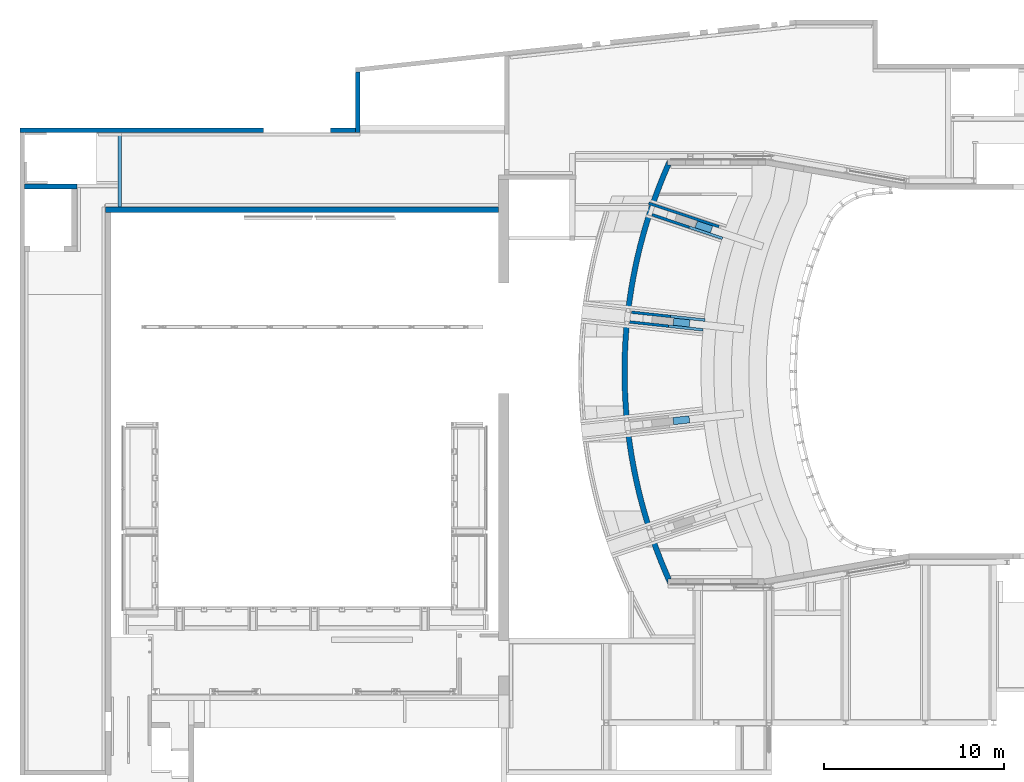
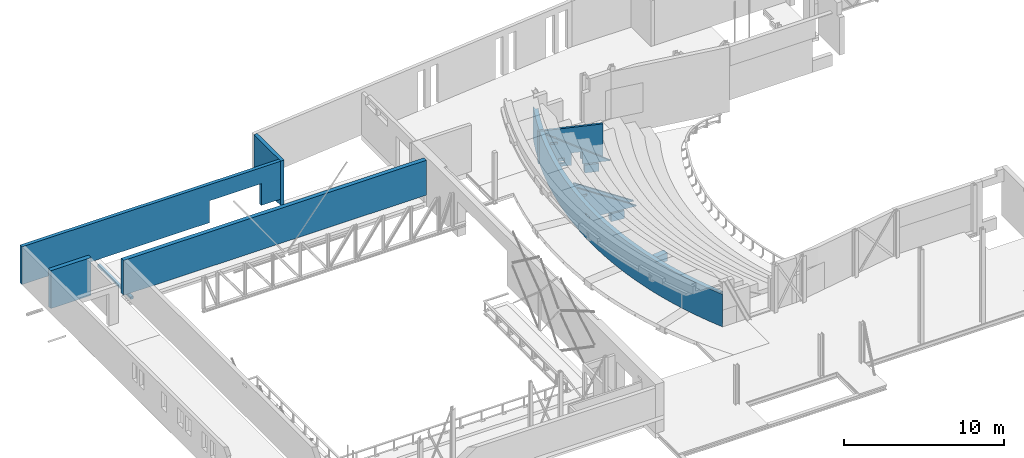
# One storey, part 52 of 68: 13 walls, 24 openings.
"""IFC2X3 building model written with IfcOpenShell, lengths in millimetres."""

from ifc_helpers import new_model, entity, si_unit, converted_unit, derived_unit, direction, frame, frame_2d, origin, place, context, subcontext, project, spatial, polyline, circle_curve, parameter, trimmed, segment, composite_curve, rectangle, outline, extrude, clip, halfspace, bounded_halfspace, material, layer, layer_set, layer_usage, type_object, element, save


model = new_model("IFC2X3")

# Units and contexts
model_context = context("Model", 3, precision=0.01, world=origin(), true_north=direction((6.12303176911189e-17, 1.0)))
body_context = subcontext(model_context, "Body", "Model", "MODEL_VIEW")
ifc_project = project(units=[si_unit("LENGTHUNIT", "METRE", prefix="MILLI"), si_unit("AREAUNIT", "SQUARE_METRE", prefix="MILLI"), si_unit("VOLUMEUNIT", "CUBIC_METRE"), converted_unit("PLANEANGLEUNIT", "DEGREE", entity("IfcRatioMeasure", 0.0174532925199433), si_unit("PLANEANGLEUNIT", "RADIAN"), dimensions=[0, 0, 0, 0, 0, 0, 0]), si_unit("MASSUNIT", "GRAM", prefix="KILO"), derived_unit("MASSDENSITYUNIT", [(si_unit("MASSUNIT", "GRAM", prefix="KILO"), 1), (si_unit("LENGTHUNIT", "METRE"), -3)]), derived_unit("MOMENTOFINERTIAUNIT", [(si_unit("LENGTHUNIT", "METRE"), 4)]), si_unit("TIMEUNIT", "SECOND"), si_unit("FREQUENCYUNIT", "HERTZ"), si_unit("THERMODYNAMICTEMPERATUREUNIT", "DEGREE_CELSIUS"), derived_unit("THERMALTRANSMITTANCEUNIT", [(si_unit("MASSUNIT", "GRAM", prefix="KILO"), 1), (si_unit("THERMODYNAMICTEMPERATUREUNIT", "KELVIN"), -1), (si_unit("TIMEUNIT", "SECOND"), -3)]), derived_unit("VOLUMETRICFLOWRATEUNIT", [(si_unit("LENGTHUNIT", "METRE"), 3), (si_unit("TIMEUNIT", "SECOND"), -1)]), si_unit("ELECTRICCURRENTUNIT", "AMPERE"), si_unit("ELECTRICVOLTAGEUNIT", "VOLT"), si_unit("POWERUNIT", "WATT"), si_unit("FORCEUNIT", "NEWTON", prefix="KILO"), si_unit("ILLUMINANCEUNIT", "LUX"), si_unit("LUMINOUSFLUXUNIT", "LUMEN"), si_unit("LUMINOUSINTENSITYUNIT", "CANDELA"), derived_unit("USERDEFINED", [(si_unit("MASSUNIT", "GRAM", prefix="KILO"), -1), (si_unit("LENGTHUNIT", "METRE"), -2), (si_unit("TIMEUNIT", "SECOND"), 3), (si_unit("LUMINOUSFLUXUNIT", "LUMEN"), 1)]), derived_unit("LINEARVELOCITYUNIT", [(si_unit("LENGTHUNIT", "METRE"), 1), (si_unit("TIMEUNIT", "SECOND"), -1)]), si_unit("PRESSUREUNIT", "PASCAL"), derived_unit("USERDEFINED", [(si_unit("LENGTHUNIT", "METRE"), -2), (si_unit("MASSUNIT", "GRAM", prefix="KILO"), 1), (si_unit("TIMEUNIT", "SECOND"), -2)]), derived_unit("LINEARFORCEUNIT", [(si_unit("MASSUNIT", "GRAM", prefix="KILO"), 1), (si_unit("LENGTHUNIT", "METRE"), 1), (si_unit("TIMEUNIT", "SECOND"), -2), (si_unit("LENGTHUNIT", "METRE"), -1)]), derived_unit("PLANARFORCEUNIT", [(si_unit("MASSUNIT", "GRAM", prefix="KILO"), 1), (si_unit("LENGTHUNIT", "METRE"), 1), (si_unit("TIMEUNIT", "SECOND"), -2), (si_unit("LENGTHUNIT", "METRE"), -2)])], contexts=[model_context])

# Site, building, storey
site_placement = place(None, origin())
site = spatial("IfcSite", under=ifc_project, at=site_placement, Name="Theater aan de Parade", CompositionType="ELEMENT")
building_placement = place(site_placement, origin())
building = spatial("IfcBuilding", under=site, at=building_placement, Name="Theater aan de Parade", CompositionType="ELEMENT")
storey_placement = place(building_placement, frame((0.0, 0.0, 8750.0)))
storey = spatial("IfcBuildingStorey", under=building, at=storey_placement, Name="02 tweede verdieping", CompositionType="ELEMENT", Elevation=8750.0)

# Wall, openings
ifc_material_1 = material(Name="00_PBT_MAT_beton t.p.g.")
ifc_layer_1 = layer(ifc_material_1, 300.0)
ifc_layer_set_1 = layer_set([ifc_layer_1], Name="Basic Wall:28_PBT_WA_beton t.p.g._d=300_bestaand")
ifc_layer_usage_1 = layer_usage(ifc_layer_set_1, "AXIS2", "POSITIVE", -150.0)
wall_type_1 = type_object("IfcWallType", Name="Basic Wall:28_PBT_WA_beton t.p.g._d=300_bestaand", PredefinedType="STANDARD", material=ifc_layer_set_1)
wall_1_placement = place(storey_placement, frame((46408.0562752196, 20692.5765726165, -80.0)))
wall_1 = element("IfcWallStandardCase", 1, at=wall_1_placement, inside=storey, type_object=wall_type_1, material=ifc_layer_usage_1, Name="Basic Wall:28_PBT_WA_beton t.p.g._d=300_bestaand", ObjectType="Basic Wall:28_PBT_WA_beton t.p.g._d=300_bestaand", context=body_context, shape_type="Clipping", body=[
    clip(clip(extrude(outline(composite_curve([segment(polyline([(-161.541956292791, 23217.4234273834), (-161.541956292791, 23517.4234273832)]), True, "CONTINUOUS"), segment(polyline([(-161.541956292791, 23517.4234273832), (-163.530516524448, 23517.4234273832)]), True, "CONTINUOUS"), segment(trimmed(circle_curve(frame_2d((25851.9437247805, 11757.4234273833), x_axis=(1.0, 0.0)), 28550.0), [parameter(155.675192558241)], [parameter(204.455966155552)], True, "PARAMETER"), True, "CONTINUOUS"), segment(polyline([(-136.541956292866, -62.0990673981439), (-136.541956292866, 237.423427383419)]), True, "CONTINUOUS"), segment(polyline([(-136.541956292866, 237.423427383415), (57.5237855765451, 237.423427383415)]), True, "CONTINUOUS"), segment(polyline([(57.5237855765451, 237.423427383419), (-377.90030401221, 1266.58064783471)]), True, "CONTINUOUS"), segment(polyline([(-377.90030401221, 1266.58064783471), (-636.354282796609, 1937.4149569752)]), True, "CONTINUOUS"), segment(polyline([(-636.354282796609, 1937.4149569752), (-830.553907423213, 2478.04736498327)]), True, "CONTINUOUS"), segment(polyline([(-830.553907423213, 2478.04736498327), (-1013.71975278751, 3022.51496134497)]), True, "CONTINUOUS"), segment(polyline([(-1013.71975278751, 3022.51496134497), (-1185.77678109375, 3570.59438029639)]), True, "CONTINUOUS"), segment(polyline([(-1185.77678109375, 3570.59438029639), (-1346.6538490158, 4122.05899477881)]), True, "CONTINUOUS"), segment(polyline([(-1346.6538490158, 4122.05899477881), (-1496.28443599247, 4676.68077803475)]), True, "CONTINUOUS"), segment(polyline([(-1496.28443599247, 4676.68077803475), (-1634.60667173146, 5234.23039789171)]), True, "CONTINUOUS"), segment(polyline([(-1634.60667173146, 5234.23039789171), (-1761.56336179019, 5794.47731158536)]), True, "CONTINUOUS"), segment(polyline([(-1761.56336179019, 5794.47731158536), (-1877.10201122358, 6357.18986108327)]), True, "CONTINUOUS"), segment(polyline([(-1877.10201122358, 6357.18986108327), (-1981.17484628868, 6922.1353688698)]), True, "CONTINUOUS"), segment(polyline([(-1981.17484628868, 6922.1353688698), (-2073.73883419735, 7489.08023415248)]), True, "CONTINUOUS"), segment(polyline([(-2073.73883419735, 7489.08023415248), (-2154.75570090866, 8057.79002945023)]), True, "CONTINUOUS"), segment(polyline([(-2154.75570090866, 8057.79002945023), (-2224.1919469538, 8628.02959752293)]), True, "CONTINUOUS"), segment(polyline([(-2224.1919469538, 8628.02959752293), (-2282.01886128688, 9199.56314860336)]), True, "CONTINUOUS"), segment(polyline([(-2282.01886128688, 9199.56314860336), (-2328.21253315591, 9772.15435789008)]), True, "CONTINUOUS"), segment(polyline([(-2328.21253315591, 9772.15435789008), (-2362.75386198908, 10345.5664632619)]), True, "CONTINUOUS"), segment(polyline([(-2362.75386198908, 10345.5664632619), (-2385.62856529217, 10919.5623631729)]), True, "CONTINUOUS"), segment(polyline([(-2385.62856529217, 10919.5623631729), (-2396.82718455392, 11493.904714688)]), True, "CONTINUOUS"), segment(polyline([(-2396.82718455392, 11493.904714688), (-2396.34508915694, 12068.356031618)]), True, "CONTINUOUS"), segment(polyline([(-2396.34508915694, 12068.356031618), (-2384.18247829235, 12642.6787827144)]), True, "CONTINUOUS"), segment(polyline([(-2384.18247829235, 12642.6787827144), (-2360.34438087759, 13216.6354898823)]), True, "CONTINUOUS"), segment(polyline([(-2360.34438087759, 13216.6354898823), (-2324.84065347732, 13789.9888263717)]), True, "CONTINUOUS"), segment(polyline([(-2324.84065347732, 13789.9888263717), (-2277.68597622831, 14362.501714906)]), True, "CONTINUOUS"), segment(polyline([(-2277.68597622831, 14362.501714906), (-2218.89984676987, 14933.9374257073)]), True, "CONTINUOUS"), segment(polyline([(-2218.89984676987, 14933.9374257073), (-2148.50657218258, 15504.0596743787)]), True, "CONTINUOUS"), segment(polyline([(-2148.50657218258, 15504.0596743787), (-2066.53525893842, 16072.6327196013)]), True, "CONTINUOUS"), segment(polyline([(-2066.53525893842, 16072.6327196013), (-1973.01980086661, 16639.4214606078)]), True, "CONTINUOUS"), segment(polyline([(-1973.01980086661, 16639.4214606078), (-1867.99886513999, 17204.1915343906)]), True, "CONTINUOUS"), segment(polyline([(-1867.99886513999, 17204.1915343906), (-1751.51587628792, 17766.7094126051)]), True, "CONTINUOUS"), segment(polyline([(-1751.51587628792, 17766.7094126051), (-1623.6189982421, 18326.742498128)]), True, "CONTINUOUS"), segment(polyline([(-1623.6189982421, 18326.742498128), (-1484.36111442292, 18884.0592212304)]), True, "CONTINUOUS"), segment(polyline([(-1484.36111442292, 18884.0592212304), (-1333.7998058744, 19438.4291353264)]), True, "CONTINUOUS"), segment(polyline([(-1333.7998058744, 19438.4291353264), (-1171.99732745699, 19989.6230122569)]), True, "CONTINUOUS"), segment(polyline([(-1171.99732745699, 19989.6230122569), (-999.020582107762, 20537.4129370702)]), True, "CONTINUOUS"), segment(polyline([(-999.020582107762, 20537.4129370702), (-814.941093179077, 21081.572402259)]), True, "CONTINUOUS"), segment(polyline([(-814.941093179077, 21081.572402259), (-619.834974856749, 21621.8764014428)]), True, "CONTINUOUS"), segment(polyline([(-619.834974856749, 21621.8764014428), (-413.782899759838, 22158.1015247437)]), True, "CONTINUOUS"), segment(polyline([(-413.782899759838, 22158.1015247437), (-196.870101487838, 22690.02596495)]), True, "CONTINUOUS"), segment(polyline([(-196.870101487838, 22690.02596495), (30.8109068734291, 23217.4234273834)]), True, "CONTINUOUS"), segment(polyline([(30.8109068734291, 23217.4234273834), (-161.541956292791, 23217.4234273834)]), True, "CONTINUOUS")], self_intersect=False)), origin(), (0.0, 0.0, 1.0), 2480.0), bounded_halfspace(frame((-161.541956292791, 23217.4234273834, 1250.0), z_axis=(-1.0, 0.0, 0.0), x_axis=(0.0, 1.0, 0.0)), True, frame((-161.541956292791, 23217.4234273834, 1250.0), z_axis=(-1.0, 0.0, 0.0), x_axis=(0.0, 1.0, 0.0)), polyline([(0.0, 0.0), (300.0, 0.0), (300.0, 1250.0), (0.0, 1250.0), (0.0, 0.0)]))), bounded_halfspace(frame((-136.541956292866, 237.42342738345, 0.0), z_axis=(-1.0, 0.0, 0.0), x_axis=(0.0, 1.0, 0.0)), True, frame((-136.541956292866, 237.42342738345, 0.0), z_axis=(-1.0, 0.0, 0.0), x_axis=(0.0, 1.0, 0.0)), polyline([(0.0, 0.0), (-299.522494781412, 0.0), (-299.522494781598, -1270.0), (0.0, -1270.0), (0.0, 0.0)]))),
])
opening_1_placement = place(wall_1_placement, origin())
element("IfcOpeningElement", 2, at=opening_1_placement, cuts=wall_1, Name="Basic Wall:28_PBT_WA_beton t.p.g._d=300_bestaand", ObjectType="Recess", context=body_context, shape_type="SweptSolid", body=[
    extrude(outline(composite_curve([segment(trimmed(circle_curve(frame_2d((28166.8399086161, -3626.22966211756), x_axis=(1.0, 0.0)), 28550.0), [parameter(172.262619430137)], [parameter(173.065442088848)], True, "PARAMETER"), True, "CONTINUOUS"), segment(polyline([(-174.308302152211, -179.228342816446), (123.497108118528, -215.449022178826)]), True, "CONTINUOUS"), segment(trimmed(circle_curve(frame_2d((28166.8399086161, -3626.22966211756), x_axis=(1.0, 0.0)), 28250.0), [parameter(172.262619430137)], [parameter(173.065442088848)], True, "PARAMETER"), False, "CONTINUOUS"), segment(polyline([(174.039933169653, 177.143779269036), (-123.228739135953, 217.533585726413)]), True, "CONTINUOUS")], self_intersect=False)), frame((-2314.8961838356, 15383.6530895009, -1920.0)), (0.0, 0.0, 1.0), 200.000000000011),
])
opening_2_placement = place(wall_1_placement, origin())
element("IfcOpeningElement", 3, at=opening_2_placement, cuts=wall_1, Name="Basic Wall:28_PBT_WA_beton t.p.g._d=300_bestaand", ObjectType="Recess", context=body_context, shape_type="SweptSolid", body=[
    extrude(outline(composite_curve([segment(trimmed(circle_curve(frame_2d((28127.0890137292, 3922.6618021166), x_axis=(1.0, 0.0)), 28550.0), [parameter(187.537967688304)], [parameter(188.340790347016)], True, "PARAMETER"), True, "CONTINUOUS"), segment(polyline([(-120.930995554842, -218.8192801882), (175.895834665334, -175.301090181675)]), True, "CONTINUOUS"), segment(trimmed(circle_curve(frame_2d((28127.0890137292, 3922.6618021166), x_axis=(1.0, 0.0)), 28250.0), [parameter(187.537967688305)], [parameter(188.340790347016)], True, "PARAMETER"), False, "CONTINUOUS"), segment(polyline([(121.221302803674, 216.737658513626), (-176.18614191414, 177.382711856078)]), True, "CONTINUOUS")], self_intersect=False)), frame((-2275.14528894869, 7834.76162526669, -1920.0)), (0.0, 0.0, 1.0), 200.000000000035),
])
opening_3_placement = place(wall_1_placement, origin())
element("IfcOpeningElement", 4, at=opening_3_placement, cuts=wall_1, Name="Basic Wall:28_PBT_WA_beton t.p.g._d=300_bestaand", ObjectType="Recess", context=body_context, shape_type="SweptSolid", body=[
    extrude(outline(composite_curve([segment(trimmed(circle_curve(frame_2d((28318.3590512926, 2142.65084465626), x_axis=(1.0, 0.0)), 28550.0), [parameter(183.925512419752)], [parameter(184.728335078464)], True, "PARAMETER"), True, "CONTINUOUS"), segment(polyline([(-134.47796255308, -210.764941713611), (164.501060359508, -186.035528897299)]), True, "CONTINUOUS"), segment(trimmed(circle_curve(frame_2d((28318.3590512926, 2142.65084465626), x_axis=(1.0, 0.0)), 28250.0), [parameter(183.925512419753)], [parameter(184.728335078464)], True, "PARAMETER"), False, "CONTINUOUS"), segment(polyline([(134.636535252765, 208.669164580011), (-164.659633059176, 188.131306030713)]), True, "CONTINUOUS")], self_intersect=False)), frame((-2466.41532651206, 9614.77258272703, -1920.0)), (0.0, 0.0, 1.0), 200.000000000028),
])
opening_4_placement = place(wall_1_placement, origin())
element("IfcOpeningElement", 5, at=opening_4_placement, cuts=wall_1, Name="Basic Wall:28_PBT_WA_beton t.p.g._d=300_bestaand", ObjectType="Recess", context=body_context, shape_type="SweptSolid", body=[
    extrude(rectangle(XDim=693.453344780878, YDim=499.999999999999, at=frame_2d((4.32009983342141e-12, -4.33431068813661e-12), x_axis=(1.0, 0.0))), frame((-2603.27768453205, 12342.0680320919, 1756.839300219), z_axis=(0.0, 0.0, 1.0), x_axis=(-1.0, 0.0, 0.0)), (0.0, 0.0, 1.0), 150.000000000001),
])

# Walls
ifc_material_2 = material(Name="00_PBT_MAT_beton t.p.g._C30/37")
ifc_layer_2 = layer(ifc_material_2, 300.0)
ifc_layer_set_2 = layer_set([ifc_layer_2], Name="Basic Wall:28_PBT_WA_beton t.p.g._d=300_C30/37")
ifc_layer_usage_2 = layer_usage(ifc_layer_set_2, "AXIS2", "POSITIVE", -150.0)
wall_type_2 = type_object("IfcWallType", Name="Basic Wall:28_PBT_WA_beton t.p.g._d=300_C30/37", PredefinedType="STANDARD", material=ifc_layer_set_2)
wall_2_placement = place(storey_placement, frame((13454.8570025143, 42720.0, 505.0), z_axis=(0.0, 0.0, 1.0), x_axis=(-1.0, 0.0, 0.0)))
element("IfcWallStandardCase", 6, at=wall_2_placement, inside=storey, type_object=wall_type_2, material=ifc_layer_usage_2, Name="Basic Wall:28_PBT_WA_beton t.p.g._d=300_C30/37", ObjectType="Basic Wall:28_PBT_WA_beton t.p.g._d=300_C30/37", context=body_context, shape_type="SweptSolid", body=[
    extrude(rectangle(XDim=2900.74444879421, YDim=300.000000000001, at=frame_2d((1450.3722243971, 7.38964445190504e-13), x_axis=(-1.0, 0.0))), origin(), (0.0, 0.0, 1.0), 2885.0),
])
ifc_layer_usage_3 = layer_usage(ifc_layer_set_2, "AXIS2", "POSITIVE", -150.0)
wall_3_placement = place(storey_placement, frame((15053.8570025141, 41423.308327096, 730.0)))
element("IfcWallStandardCase", 7, at=wall_3_placement, inside=storey, type_object=wall_type_2, material=ifc_layer_usage_3, Name="Basic Wall:28_PBT_WA_beton t.p.g._d=300_C30/37", ObjectType="Basic Wall:28_PBT_WA_beton t.p.g._d=300_C30/37", context=body_context, shape_type="SweptSolid", body=[
    extrude(rectangle(XDim=21800.0011275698, YDim=300.000000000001, at=frame_2d((10900.0005637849, -2.17426077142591e-12), x_axis=(-1.0, 0.0))), origin(), (0.0, 0.0, 1.0), 2660.0),
])
ifc_layer_3 = layer(ifc_material_2, 250.0)
ifc_layer_set_3 = layer_set([ifc_layer_3], Name="Basic Wall:28_PBT_WA_beton t.p.g._d=250_C30/37")
ifc_layer_usage_4 = layer_usage(ifc_layer_set_3, "AXIS2", "NEGATIVE", 125.0)
wall_type_3 = type_object("IfcWallType", Name="Basic Wall:28_PBT_WA_beton t.p.g._d=250_C30/37", PredefinedType="STANDARD", material=ifc_layer_set_3)
wall_4_placement = place(storey_placement, frame((29063.8975663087, 49086.4968436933, 0.0), z_axis=(0.0, 0.0, 1.0), x_axis=(0.0, -1.0, 0.0)))
element("IfcWallStandardCase", 8, at=wall_4_placement, inside=storey, type_object=wall_type_3, material=ifc_layer_usage_4, Name="Basic Wall:28_PBT_WA_beton t.p.g._d=250_C30/37", ObjectType="Basic Wall:28_PBT_WA_beton t.p.g._d=250_C30/37", context=body_context, shape_type="SweptSolid", body=[
    extrude(outline(polyline([(3363.49684369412, -125.0), (3363.49684369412, 125.0), (0.0, 125.0), (27.1269532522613, -125.0), (3363.49684369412, -125.0)])), origin(), (0.0, 0.0, 1.0), 3390.0),
])

# Wall, opening
ifc_layer_usage_5 = layer_usage(ifc_layer_set_3, "AXIS2", "NEGATIVE", 125.0)
wall_5_placement = place(storey_placement, frame((28938.8975663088, 45848.0, 505.0), z_axis=(0.0, 0.0, 1.0), x_axis=(-1.0, 0.0, 0.0)))
wall_5 = element("IfcWallStandardCase", 9, at=wall_5_placement, inside=storey, type_object=wall_type_3, material=ifc_layer_usage_5, Name="Basic Wall:28_PBT_WA_beton t.p.g._d=250_C30/37", ObjectType="Basic Wall:28_PBT_WA_beton t.p.g._d=250_C30/37", context=body_context, shape_type="SweptSolid", body=[
    extrude(rectangle(XDim=18634.7850125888, YDim=249.999999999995, at=frame_2d((9317.39250629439, -4.21351842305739e-12), x_axis=(-1.0, 0.0))), origin(), (0.0, 0.0, 1.0), 2885.0),
])
opening_5_placement = place(wall_5_placement, origin())
element("IfcOpeningElement", 10, at=opening_5_placement, cuts=wall_5, Name="Basic Wall:28_PBT_WA_beton t.p.g._d=250_C30/37", ObjectType="Opening", context=body_context, shape_type="SweptSolid", body=[
    extrude(rectangle(XDim=2199.99999999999, YDim=3725.00000000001, at=frame_2d((-2.1600499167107e-12, 1.02318153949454e-12), x_axis=(0.0, 1.0))), frame((3252.6679143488, -125.0, 565.0), z_axis=(0.0, 1.0, 0.0), x_axis=(1.0, 0.0, 0.0)), (0.0, 0.0, 1.0), 249.999999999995),
])

# Walls
ifc_layer_4 = layer(ifc_material_2, 200.0)
ifc_layer_set_4 = layer_set([ifc_layer_4], Name="Basic Wall:28_PBT_WA_beton t.p.g._d=200_C30/37")
ifc_layer_usage_6 = layer_usage(ifc_layer_set_4, "AXIS2", "POSITIVE", -100.0)
wall_type_4 = type_object("IfcWallType", Name="Basic Wall:28_PBT_WA_beton t.p.g._d=200_C30/37", PredefinedType="STANDARD", material=ifc_layer_set_4)
wall_6_placement = place(storey_placement, frame((15835.0, 45723.0, 0.0), z_axis=(0.0, 0.0, 1.0), x_axis=(0.0, -1.0, 0.0)))
element("IfcWallStandardCase", 11, at=wall_6_placement, inside=storey, type_object=wall_type_4, material=ifc_layer_usage_6, Name="Basic Wall:28_PBT_WA_beton t.p.g._d=200_C30/37", ObjectType="Basic Wall:28_PBT_WA_beton t.p.g._d=200_C30/37", context=body_context, shape_type="SweptSolid", body=[
    extrude(rectangle(XDim=4149.69167290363, YDim=200.000000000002, at=frame_2d((2074.84583645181, -3.33955085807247e-13), x_axis=(-1.0, 0.0))), origin(), (0.0, 0.0, 1.0), 165.000000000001),
])
ifc_layer_5 = layer(ifc_material_2, 400.0)
ifc_layer_set_5 = layer_set([ifc_layer_5], Name="Basic Wall:28_PBT_WA_beton t.p.g._d=400_C30/37")
ifc_layer_usage_7 = layer_usage(ifc_layer_set_5, "AXIS2", "NEGATIVE", 200.0)
wall_type_5 = type_object("IfcWallType", Name="Basic Wall:28_PBT_WA_beton t.p.g._d=400_C30/37", PredefinedType="STANDARD", material=ifc_layer_set_5)
wall_7_placement = place(storey_placement, frame((48690.439813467, 40334.9499787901, -900.0), z_axis=(0.0, 0.0, 1.0), x_axis=(-0.948323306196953, 0.317305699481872, 0.0)))
element("IfcWallStandardCase", 12, at=wall_7_placement, inside=storey, type_object=wall_type_5, material=ifc_layer_usage_7, Name="Basic Wall:28_PBT_WA_beton t.p.g._d=400_C30/37", ObjectType="Basic Wall:28_PBT_WA_beton t.p.g._d=400_C30/37", context=body_context, shape_type="SweptSolid", body=[
    extrude(rectangle(XDim=900.00000000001, YDim=400.000000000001, at=frame_2d((450.000000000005, 1.3926637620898e-12), x_axis=(-1.0, 0.0))), origin(), (0.0, 0.0, 1.0), 610.000000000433),
])
ifc_layer_usage_8 = layer_usage(ifc_layer_set_5, "AXIS2", "POSITIVE", -200.0)
wall_8_placement = place(storey_placement, frame((47468.4374648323, 35118.7407513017, -900.0), z_axis=(0.0, 0.0, 1.0), x_axis=(-0.994276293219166, 0.10683937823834, 0.0)))
element("IfcWallStandardCase", 13, at=wall_8_placement, inside=storey, type_object=wall_type_5, material=ifc_layer_usage_8, Name="Basic Wall:28_PBT_WA_beton t.p.g._d=400_C30/37", ObjectType="Basic Wall:28_PBT_WA_beton t.p.g._d=400_C30/37", context=body_context, shape_type="SweptSolid", body=[
    extrude(rectangle(XDim=900.000000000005, YDim=399.999999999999, at=frame_2d((450.000000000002, 1.27897692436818e-12), x_axis=(-1.0, 0.0))), origin(), (0.0, 0.0, 1.0), 610.000000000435),
])
ifc_layer_usage_9 = layer_usage(ifc_layer_set_5, "AXIS2", "NEGATIVE", 200.0)
wall_9_placement = place(storey_placement, frame((47458.5406329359, 29793.3618563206, -900.0), z_axis=(0.0, 0.0, 1.0), x_axis=(-0.994276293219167, -0.106839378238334, 0.0)))
element("IfcWallStandardCase", 14, at=wall_9_placement, inside=storey, type_object=wall_type_5, material=ifc_layer_usage_9, Name="Basic Wall:28_PBT_WA_beton t.p.g._d=400_C30/37", ObjectType="Basic Wall:28_PBT_WA_beton t.p.g._d=400_C30/37", context=body_context, shape_type="SweptSolid", body=[
    extrude(rectangle(XDim=900.000000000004, YDim=399.999999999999, at=frame_2d((449.999999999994, 4.12114786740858e-13), x_axis=(-1.0, 0.0))), origin(), (0.0, 0.0, 1.0), 610.000000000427),
])

# Wall, openings
ifc_layer_6 = layer(ifc_material_2, 150.0)
ifc_layer_set_6 = layer_set([ifc_layer_6], Name="Basic Wall:28_PBT_WA_beton t.p.g._d=150_C30/37")
ifc_layer_usage_10 = layer_usage(ifc_layer_set_6, "AXIS2", "POSITIVE", -75.0)
wall_type_6 = type_object("IfcWallType", Name="Basic Wall:28_PBT_WA_beton t.p.g._d=150_C30/37", PredefinedType="STANDARD", material=ifc_layer_set_6)
wall_10_placement = place(storey_placement, frame((49103.5402918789, 40486.7134784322, -80.0), z_axis=(0.0, 0.0, 1.0), x_axis=(-0.948323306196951, 0.317305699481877, 0.0)))
wall_10 = element("IfcWallStandardCase", 15, at=wall_10_placement, inside=storey, type_object=wall_type_6, material=ifc_layer_usage_10, Name="Basic Wall:28_PBT_WA_beton t.p.g._d=150_C30/37", ObjectType="Basic Wall:28_PBT_WA_beton t.p.g._d=150_C30/37", context=body_context, shape_type="SweptSolid", body=[
    extrude(rectangle(XDim=4121.12536622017, YDim=149.999999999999, at=frame_2d((2060.56268311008, -3.22586402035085e-12), x_axis=(-1.0, 0.0))), origin(), (0.0, 0.0, 1.0), 2480.0),
])
opening_6_placement = place(wall_10_placement, origin())
element("IfcOpeningElement", 16, at=opening_6_placement, cuts=wall_10, Name="Basic Wall:28_PBT_WA_beton t.p.g._d=150_C30/37", ObjectType="Opening", context=body_context, shape_type="SweptSolid", body=[
    extrude(rectangle(XDim=929.999999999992, YDim=700.000000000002, at=frame_2d((-4.12114786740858e-12, 0.0), x_axis=(0.0, 1.0))), frame((1766.91292836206, -75.0, 465.0), z_axis=(0.0, 1.0, 0.0), x_axis=(1.0, 0.0, 0.0)), (0.0, 0.0, 1.0), 150.000000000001),
])
opening_7_placement = place(wall_10_placement, origin())
element("IfcOpeningElement", 17, at=opening_7_placement, cuts=wall_10, Name="Basic Wall:28_PBT_WA_beton t.p.g._d=150_C30/37", ObjectType="Opening", context=body_context, shape_type="SweptSolid", body=[
    extrude(rectangle(XDim=149.999999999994, YDim=450.000000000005, at=frame_2d((-5.48538992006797e-12, -1.08002495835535e-12), x_axis=(0.0, 1.0))), frame((3223.07737937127, -75.0, 1830.0), z_axis=(0.0, 1.0, 0.0), x_axis=(1.0, 0.0, 0.0)), (0.0, 0.0, 1.0), 150.000000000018),
])
opening_8_placement = place(wall_10_placement, origin())
element("IfcOpeningElement", 18, at=opening_8_placement, cuts=wall_10, Name="Basic Wall:28_PBT_WA_beton t.p.g._d=150_C30/37", ObjectType="Opening", context=body_context, shape_type="SweptSolid", body=[
    extrude(rectangle(XDim=929.999999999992, YDim=700.000000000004, at=frame_2d((0.0, 5.51381162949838e-12), x_axis=(1.0, 0.0))), frame((1766.91292836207, 475.0, 465.0), z_axis=(0.0, 1.0, 0.0), x_axis=(0.0, 0.0, -1.0)), (0.0, 0.0, 1.0), 150.000000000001),
])
opening_9_placement = place(wall_10_placement, origin())
element("IfcOpeningElement", 19, at=opening_9_placement, cuts=wall_10, Name="Basic Wall:28_PBT_WA_beton t.p.g._d=150_C30/37", ObjectType="Opening", context=body_context, shape_type="SweptSolid", body=[
    extrude(rectangle(XDim=149.999999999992, YDim=450.000000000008, at=frame_2d((0.0, 4.10693701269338e-12), x_axis=(1.0, 0.0))), frame((3223.07737937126, 475.0, 1830.0), z_axis=(0.0, 1.0, 0.0), x_axis=(0.0, 0.0, -1.0)), (0.0, 0.0, 1.0), 150.000000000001),
])
opening_10_placement = place(wall_10_placement, origin())
element("IfcOpeningElement", 20, at=opening_10_placement, cuts=wall_10, Name="Basic Wall:28_PBT_WA_beton t.p.g._d=150_C30/37", ObjectType="Opening", context=body_context, shape_type="SweptSolid", body=[
    extrude(rectangle(XDim=399.999999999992, YDim=400.000000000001, at=frame_2d((0.0, -5.40012479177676e-13), x_axis=(0.0, 1.0))), frame((2743.5973880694, -75.0, 430.0), z_axis=(0.0, 1.0, 0.0), x_axis=(1.0, 0.0, 0.0)), (0.0, 0.0, 1.0), 150.000000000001),
])
opening_11_placement = place(wall_10_placement, origin())
element("IfcOpeningElement", 21, at=opening_11_placement, cuts=wall_10, Name="Basic Wall:28_PBT_WA_beton t.p.g._d=150_C30/37", ObjectType="Opening", context=body_context, shape_type="SweptSolid", body=[
    extrude(rectangle(XDim=399.999999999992, YDim=400.000000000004, at=frame_2d((5.40012479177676e-13, -1.37845290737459e-12), x_axis=(1.0, 0.0))), frame((2743.59738806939, 475.0, 430.0), z_axis=(0.0, 1.0, 0.0), x_axis=(0.0, 0.0, -1.0)), (0.0, 0.0, 1.0), 150.000000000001),
])

ifc_layer_usage_11 = layer_usage(ifc_layer_set_6, "AXIS2", "NEGATIVE", 75.0)
wall_11_placement = place(storey_placement, frame((49291.0253957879, 39844.010627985, -80.0), z_axis=(0.0, 0.0, 1.0), x_axis=(-0.948323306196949, 0.317305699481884, 0.0)))
wall_11 = element("IfcWallStandardCase", 22, at=wall_11_placement, inside=storey, type_object=wall_type_6, material=ifc_layer_usage_11, Name="Basic Wall:28_PBT_WA_beton t.p.g._d=150_C30/37", ObjectType="Basic Wall:28_PBT_WA_beton t.p.g._d=150_C30/37", context=body_context, shape_type="Clipping", body=[
    clip(extrude(rectangle(XDim=4121.10732756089, YDim=150.000000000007, at=frame_2d((2060.55366378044, 2.57216470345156e-12), x_axis=(-1.0, 0.0))), origin(), (0.0, 0.0, 1.0), 2480.0), halfspace(frame((0.0, -75.0, 0.0), z_axis=(-0.524487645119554, 0.0, 0.851418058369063), x_axis=(0.0, 1.0, 0.0)), False)),
])
opening_12_placement = place(wall_11_placement, origin())
element("IfcOpeningElement", 23, at=opening_12_placement, cuts=wall_11, Name="Basic Wall:28_PBT_WA_beton t.p.g._d=150_C30/37", ObjectType="Opening", context=body_context, shape_type="SweptSolid", body=[
    extrude(rectangle(XDim=929.999999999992, YDim=700.000000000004, at=frame_2d((0.0, 5.51381162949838e-12), x_axis=(1.0, 0.0))), frame((2148.64269948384, -75.0, 465.0), z_axis=(0.0, 1.0, 0.0), x_axis=(0.0, 0.0, -1.0)), (0.0, 0.0, 1.0), 150.000000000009),
])
opening_13_placement = place(wall_11_placement, origin())
element("IfcOpeningElement", 24, at=opening_13_placement, cuts=wall_11, Name="Basic Wall:28_PBT_WA_beton t.p.g._d=150_C30/37", ObjectType="Opening", context=body_context, shape_type="SweptSolid", body=[
    extrude(rectangle(XDim=149.999999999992, YDim=450.000000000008, at=frame_2d((0.0, 4.10693701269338e-12), x_axis=(1.0, 0.0))), frame((3604.80715049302, -75.0, 1830.0), z_axis=(0.0, 1.0, 0.0), x_axis=(0.0, 0.0, -1.0)), (0.0, 0.0, 1.0), 150.000000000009),
])
opening_14_placement = place(wall_11_placement, origin())
element("IfcOpeningElement", 25, at=opening_14_placement, cuts=wall_11, Name="Basic Wall:28_PBT_WA_beton t.p.g._d=150_C30/37", ObjectType="Opening", context=body_context, shape_type="SweptSolid", body=[
    extrude(rectangle(XDim=399.999999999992, YDim=400.000000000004, at=frame_2d((5.40012479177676e-13, -1.37845290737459e-12), x_axis=(1.0, 0.0))), frame((3125.32715919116, -75.0, 430.0), z_axis=(0.0, 1.0, 0.0), x_axis=(0.0, 0.0, -1.0)), (0.0, 0.0, 1.0), 150.000000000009),
])
opening_15_placement = place(wall_11_placement, origin())
element("IfcOpeningElement", 26, at=opening_15_placement, cuts=wall_11, Name="Basic Wall:28_PBT_WA_beton t.p.g._d=150_C30/37", ObjectType="Opening", context=body_context, shape_type="SweptSolid", body=[
    extrude(rectangle(XDim=929.999999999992, YDim=700.000000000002, at=frame_2d((-4.12114786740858e-12, 0.0), x_axis=(0.0, 1.0))), frame((2148.64269948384, -625.0, 465.0), z_axis=(0.0, 1.0, 0.0), x_axis=(1.0, 0.0, 0.0)), (0.0, 0.0, 1.0), 150.000000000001),
])
opening_16_placement = place(wall_11_placement, origin())
element("IfcOpeningElement", 27, at=opening_16_placement, cuts=wall_11, Name="Basic Wall:28_PBT_WA_beton t.p.g._d=150_C30/37", ObjectType="Opening", context=body_context, shape_type="SweptSolid", body=[
    extrude(rectangle(XDim=149.999999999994, YDim=450.000000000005, at=frame_2d((-5.48538992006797e-12, -1.08002495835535e-12), x_axis=(0.0, 1.0))), frame((3604.80715049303, -625.0, 1830.0), z_axis=(0.0, 1.0, 0.0), x_axis=(1.0, 0.0, 0.0)), (0.0, 0.0, 1.0), 150.000000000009),
])

ifc_layer_usage_12 = layer_usage(ifc_layer_set_6, "AXIS2", "POSITIVE", -75.0)
wall_12_placement = place(storey_placement, frame((48325.0859253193, 35303.2731718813, -80.0), z_axis=(0.0, 0.0, 1.0), x_axis=(-0.994276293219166, 0.106839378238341, 0.0)))
wall_12 = element("IfcWallStandardCase", 28, at=wall_12_placement, inside=storey, type_object=wall_type_6, material=ifc_layer_usage_12, Name="Basic Wall:28_PBT_WA_beton t.p.g._d=150_C30/37", ObjectType="Basic Wall:28_PBT_WA_beton t.p.g._d=150_C30/37", context=body_context, shape_type="Clipping", body=[
    clip(extrude(rectangle(XDim=4095.94774324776, YDim=149.999999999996, at=frame_2d((2047.97387162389, -1.07291953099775e-12), x_axis=(-1.0, 0.0))), origin(), (0.0, 0.0, 1.0), 2480.0), halfspace(frame((0.0, -75.0, 15.9744424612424), z_axis=(-0.524478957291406, 0.0, 0.851423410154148), x_axis=(0.0, 1.0, 0.0)), False)),
])
opening_17_placement = place(wall_12_placement, origin())
element("IfcOpeningElement", 29, at=opening_17_placement, cuts=wall_12, Name="Basic Wall:28_PBT_WA_beton t.p.g._d=150_C30/37", ObjectType="Opening", context=body_context, shape_type="SweptSolid", body=[
    extrude(rectangle(XDim=149.999999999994, YDim=450.000000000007, at=frame_2d((0.0, -1.08002495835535e-12), x_axis=(0.0, 1.0))), frame((3670.94774324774, -75.0, 1830.0), z_axis=(0.0, 1.0, 0.0), x_axis=(1.0, 0.0, 0.0)), (0.0, 0.0, 1.0), 150.0),
])
opening_18_placement = place(wall_12_placement, origin())
element("IfcOpeningElement", 30, at=opening_18_placement, cuts=wall_12, Name="Basic Wall:28_PBT_WA_beton t.p.g._d=150_C30/37", ObjectType="Opening", context=body_context, shape_type="SweptSolid", body=[
    extrude(rectangle(XDim=149.999999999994, YDim=450.000000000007, at=frame_2d((-1.08002495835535e-12, 0.0), x_axis=(1.0, 0.0))), frame((3670.94774324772, 475.0, 1830.0), z_axis=(0.0, 1.0, 0.0), x_axis=(0.0, 0.0, -1.0)), (0.0, 0.0, 1.0), 150.000000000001),
])
opening_19_placement = place(wall_12_placement, origin())
element("IfcOpeningElement", 31, at=opening_19_placement, cuts=wall_12, Name="Basic Wall:28_PBT_WA_beton t.p.g._d=150_C30/37", ObjectType="Opening", context=body_context, shape_type="SweptSolid", body=[
    extrude(rectangle(XDim=399.999999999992, YDim=400.000000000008, at=frame_2d((0.0, -5.40012479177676e-13), x_axis=(0.0, 1.0))), frame((3232.02992680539, -75.0, 430.0), z_axis=(0.0, 1.0, 0.0), x_axis=(1.0, 0.0, 0.0)), (0.0, 0.0, 1.0), 149.999999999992),
])
opening_20_placement = place(wall_12_placement, origin())
element("IfcOpeningElement", 32, at=opening_20_placement, cuts=wall_12, Name="Basic Wall:28_PBT_WA_beton t.p.g._d=150_C30/37", ObjectType="Opening", context=body_context, shape_type="SweptSolid", body=[
    extrude(rectangle(XDim=399.999999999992, YDim=400.000000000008, at=frame_2d((5.40012479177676e-13, 0.0), x_axis=(1.0, 0.0))), frame((3232.0299268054, 475.0, 430.0), z_axis=(0.0, 1.0, 0.0), x_axis=(0.0, 0.0, -1.0)), (0.0, 0.0, 1.0), 150.000000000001),
])

ifc_layer_usage_13 = layer_usage(ifc_layer_set_6, "AXIS2", "NEGATIVE", 75.0)
wall_13_placement = place(storey_placement, frame((48215.8570114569, 34761.8441401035, -80.0), z_axis=(0.0, 0.0, 1.0), x_axis=(-0.994276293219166, 0.106839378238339, 0.0)))
wall_13 = element("IfcWallStandardCase", 33, at=wall_13_placement, inside=storey, type_object=wall_type_6, material=ifc_layer_usage_13, Name="Basic Wall:28_PBT_WA_beton t.p.g._d=150_C30/37", ObjectType="Basic Wall:28_PBT_WA_beton t.p.g._d=150_C30/37", context=body_context, shape_type="Clipping", body=[
    clip(extrude(rectangle(XDim=4095.18996477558, YDim=149.999999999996, at=frame_2d((2047.59498238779, 5.25801624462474e-13), x_axis=(-1.0, 0.0))), origin(), (0.0, 0.0, 1.0), 2480.0), halfspace(frame((0.0, -75.0, 16.5003372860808), z_axis=(-0.524478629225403, 0.0, 0.851423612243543), x_axis=(0.0, 1.0, 0.0)), False)),
])
opening_21_placement = place(wall_13_placement, origin())
element("IfcOpeningElement", 34, at=opening_21_placement, cuts=wall_13, Name="Basic Wall:28_PBT_WA_beton t.p.g._d=150_C30/37", ObjectType="Opening", context=body_context, shape_type="SweptSolid", body=[
    extrude(rectangle(XDim=149.999999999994, YDim=450.000000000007, at=frame_2d((-1.08002495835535e-12, 0.0), x_axis=(1.0, 0.0))), frame((3620.1899647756, -75.0, 1830.0), z_axis=(0.0, 1.0, 0.0), x_axis=(0.0, 0.0, -1.0)), (0.0, 0.0, 1.0), 150.000000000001),
])
opening_22_placement = place(wall_13_placement, origin())
element("IfcOpeningElement", 35, at=opening_22_placement, cuts=wall_13, Name="Basic Wall:28_PBT_WA_beton t.p.g._d=150_C30/37", ObjectType="Opening", context=body_context, shape_type="SweptSolid", body=[
    extrude(rectangle(XDim=149.999999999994, YDim=450.000000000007, at=frame_2d((0.0, -1.08002495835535e-12), x_axis=(0.0, 1.0))), frame((3620.18996477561, -625.0, 1830.0), z_axis=(0.0, 1.0, 0.0), x_axis=(1.0, 0.0, 0.0)), (0.0, 0.0, 1.0), 150.0),
])
opening_23_placement = place(wall_13_placement, origin())
element("IfcOpeningElement", 36, at=opening_23_placement, cuts=wall_13, Name="Basic Wall:28_PBT_WA_beton t.p.g._d=150_C30/37", ObjectType="Opening", context=body_context, shape_type="SweptSolid", body=[
    extrude(rectangle(XDim=399.999999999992, YDim=400.000000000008, at=frame_2d((5.40012479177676e-13, 0.0), x_axis=(1.0, 0.0))), frame((3181.27214833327, -75.0, 430.0), z_axis=(0.0, 1.0, 0.0), x_axis=(0.0, 0.0, -1.0)), (0.0, 0.0, 1.0), 150.000000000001),
])
opening_24_placement = place(wall_13_placement, origin())
element("IfcOpeningElement", 37, at=opening_24_placement, cuts=wall_13, Name="Basic Wall:28_PBT_WA_beton t.p.g._d=150_C30/37", ObjectType="Opening", context=body_context, shape_type="SweptSolid", body=[
    extrude(rectangle(XDim=399.999999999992, YDim=400.000000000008, at=frame_2d((0.0, -5.40012479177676e-13), x_axis=(0.0, 1.0))), frame((3181.27214833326, -625.0, 430.0), z_axis=(0.0, 1.0, 0.0), x_axis=(1.0, 0.0, 0.0)), (0.0, 0.0, 1.0), 150.0),
])

save(model, "model.ifc")
